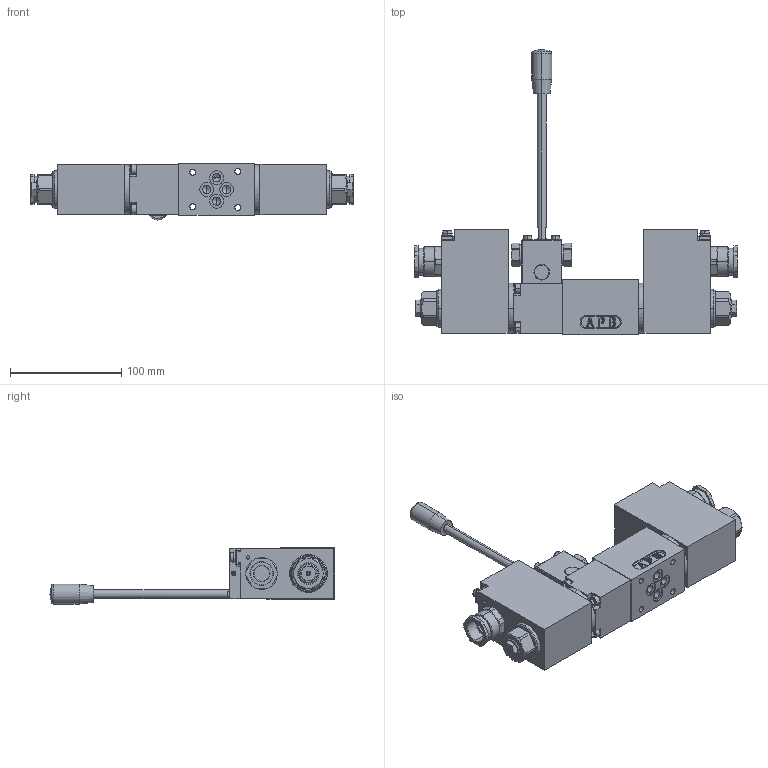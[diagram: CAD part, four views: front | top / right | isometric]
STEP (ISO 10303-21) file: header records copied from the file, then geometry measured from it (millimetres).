
FILE_DESCRIPTION (( 'STEP AP214' ), '1' );
FILE_NAME ('WDYFA06-...-Z568 #2.STEP', '2019-09-23T06:44:56', ( '' ), ( '' ), 'SwSTEP 2.0', 'SolidWorks 2018', '' );
FILE_SCHEMA (( 'AUTOMOTIVE_DESIGN' ));
Length unit declared in the file: millimetre
Products named in the file (1): WDYFA06-...-Z568 #2
Bounding box: 290.25 x 256.5 x 50.5 mm (x, y, z)
Volume: 843236.7 mm3; surface area: 121902.3 mm2
Topology: 11 solids, 31 shells, 1483 faces, 3503 edges, 2098 vertices
Faces by surface type: plane 567, cylinder 491, cone 189, torus 121, sphere 59, bspline 56
Entity records: 63059 total; most frequent: CARTESIAN_POINT 12652, DIRECTION 7444, ORIENTED_EDGE 6822, EDGE_CURVE 3411, AXIS2_PLACEMENT_3D 2923, VERTEX_POINT 2093, EDGE_LOOP 1628, VECTOR 1598
